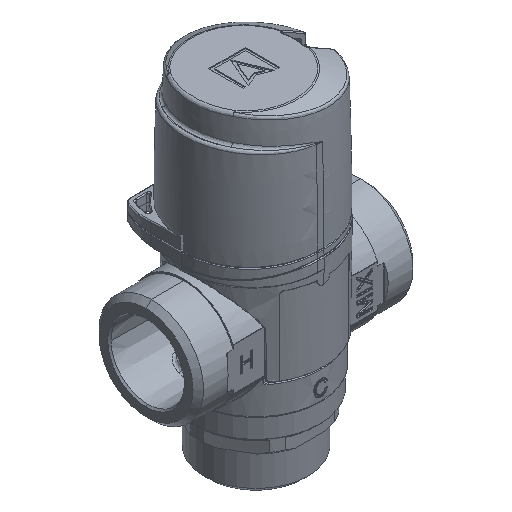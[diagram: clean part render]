
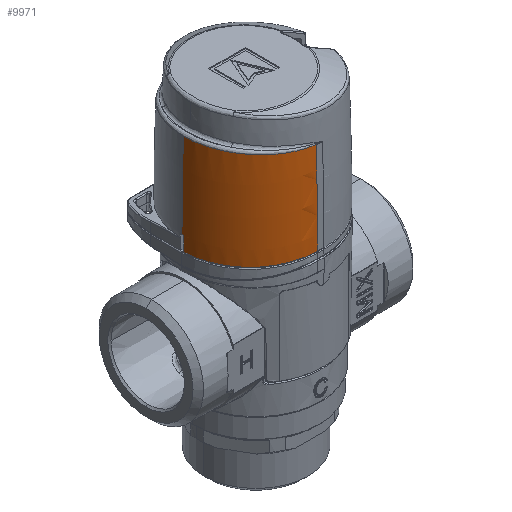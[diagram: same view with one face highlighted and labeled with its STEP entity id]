
A CAD part, isometric view. The second image highlights one B-rep face of the part: STEP entity #9971.
In plain terms, the highlighted toroidal (fillet/blend) face has major radius 1063.64 mm and minor radius 1085.24 mm.
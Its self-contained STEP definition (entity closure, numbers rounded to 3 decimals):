
#1653 = CARTESIAN_POINT ( 'NONE',  ( 2., 21.194, 29.493 ) ) ;
#3725 = CIRCLE ( 'NONE', #102934, 1085.244 ) ;
#4660 = CARTESIAN_POINT ( 'NONE',  ( 23.581, 0.6, 4.632 ) ) ;
#9971 = ADVANCED_FACE ( 'NONE', ( #64599 ), #78752, .T. ) ;
#10187 = EDGE_CURVE ( 'NONE', #58458, #79698, #137815, .T. ) ;
#10274 = ORIENTED_EDGE ( 'NONE', *, *, #98306, .T. ) ;
#10327 = DIRECTION ( 'NONE',  ( 0., 0., -1. ) ) ;
#11094 = ORIENTED_EDGE ( 'NONE', *, *, #10187, .T. ) ;
#12767 = CARTESIAN_POINT ( 'NONE',  ( -1061.644, 0., -0.2 ) ) ;
#14966 = CARTESIAN_POINT ( 'NONE',  ( 23.592, 0.6, 0.3 ) ) ;
#15991 = CARTESIAN_POINT ( 'NONE',  ( 23.587, 0.1, 5. ) ) ;
#17786 = DIRECTION ( 'NONE',  ( 1., 0., 0. ) ) ;
#18327 = CARTESIAN_POINT ( 'NONE',  ( 23.585, 0.361, 4.946 ) ) ;
#26765 = EDGE_CURVE ( 'NONE', #141821, #33703, #111987, .T. ) ;
#27753 = ORIENTED_EDGE ( 'NONE', *, *, #58294, .F. ) ;
#33703 = VERTEX_POINT ( 'NONE', #52041 ) ;
#36559 = ORIENTED_EDGE ( 'NONE', *, *, #50567, .T. ) ;
#36693 = DIRECTION ( 'NONE',  ( 1., 0., 0. ) ) ;
#36883 = ORIENTED_EDGE ( 'NONE', *, *, #84204, .F. ) ;
#37911 = CARTESIAN_POINT ( 'NONE',  ( 3.393, 21.19, 29.641 ) ) ;
#40406 = CIRCLE ( 'NONE', #79644, 21.588 ) ;
#43924 = CARTESIAN_POINT ( 'NONE',  ( 22.925, 3.47, 31.712 ) ) ;
#49632 = CARTESIAN_POINT ( 'NONE',  ( 23.588, 0.6, 3.1 ) ) ;
#49802 = AXIS2_PLACEMENT_3D ( 'NONE', #12767, #134808, #110263 ) ;
#50567 = EDGE_CURVE ( 'NONE', #79698, #86190, #67792, .T. ) ;
#51254 = EDGE_LOOP ( 'NONE', ( #135536, #27753, #11094, #36559, #10274, #36883, #89511 ) ) ;
#51717 = DIRECTION ( 'NONE',  ( 0., 0., 1. ) ) ;
#52041 = CARTESIAN_POINT ( 'NONE',  ( 23.13, 0., 31.733 ) ) ;
#57635 = DIRECTION ( 'NONE',  ( 0., 0., 1. ) ) ;
#58294 = EDGE_CURVE ( 'NONE', #58458, #141821, #40406, .T. ) ;
#58458 = VERTEX_POINT ( 'NONE', #15991 ) ;
#60234 = CARTESIAN_POINT ( 'NONE',  ( 23.582, 0.546, 4.762 ) ) ;
#64599 = FACE_OUTER_BOUND ( 'NONE', #51254, .T. ) ;
#67209 = DIRECTION ( 'NONE',  ( -1., 0., 0. ) ) ;
#67792 = B_SPLINE_CURVE_WITH_KNOTS ( 'NONE', 3,
 ( #126176, #49632, #127583, #14966 ),
 .UNSPECIFIED., .F., .F.,
 ( 4, 4 ),
 ( 0., 0.004 ),
 .UNSPECIFIED. ) ;
#68215 = CARTESIAN_POINT ( 'NONE',  ( 17.027, 15.074, 31.086 ) ) ;
#69355 = CARTESIAN_POINT ( 'NONE',  ( 2., -1063.644, -0.2 ) ) ;
#78752 = TOROIDAL_SURFACE ( 'NONE', #131848, -1063.644, 1085.244 ) ;
#79143 = CARTESIAN_POINT ( 'NONE',  ( 23.588, 0., 5. ) ) ;
#79644 = AXIS2_PLACEMENT_3D ( 'NONE', #109227, #10327, #94964 ) ;
#79698 = VERTEX_POINT ( 'NONE', #105389 ) ;
#79801 = EDGE_CURVE ( 'NONE', #33703, #86112, #125920, .T. ) ;
#84204 = EDGE_CURVE ( 'NONE', #86112, #121633, #3725, .T. ) ;
#86112 = VERTEX_POINT ( 'NONE', #1653 ) ;
#86190 = VERTEX_POINT ( 'NONE', #104856 ) ;
#88007 = CARTESIAN_POINT ( 'NONE',  ( 22.242, 6.189, 31.639 ) ) ;
#88948 = DIRECTION ( 'NONE',  ( 0., -1., 0. ) ) ;
#89511 = ORIENTED_EDGE ( 'NONE', *, *, #79801, .F. ) ;
#91418 = CARTESIAN_POINT ( 'NONE',  ( 13.775, 17.743, 30.742 ) ) ;
#92144 = CARTESIAN_POINT ( 'NONE',  ( 21.542, 8.137, 31.565 ) ) ;
#93346 = AXIS2_PLACEMENT_3D ( 'NONE', #125481, #57635, #36693 ) ;
#93704 = CARTESIAN_POINT ( 'NONE',  ( 2., 0., -0.2 ) ) ;
#94964 = DIRECTION ( 'NONE',  ( 1., 0., 0. ) ) ;
#98306 = EDGE_CURVE ( 'NONE', #86190, #121633, #113944, .T. ) ;
#102934 = AXIS2_PLACEMENT_3D ( 'NONE', #69355, #67209, #88948 ) ;
#104856 = CARTESIAN_POINT ( 'NONE',  ( 23.592, 0.6, 0.3 ) ) ;
#105389 = CARTESIAN_POINT ( 'NONE',  ( 23.582, 0.6, 4.5 ) ) ;
#105733 = CARTESIAN_POINT ( 'NONE',  ( 23.582, 0.6, 4.5 ) ) ;
#109227 = CARTESIAN_POINT ( 'NONE',  ( 2., 0., 5. ) ) ;
#110263 = DIRECTION ( 'NONE',  ( 0., 0., -1. ) ) ;
#111987 = CIRCLE ( 'NONE', #49802, 1085.244 ) ;
#113944 = CIRCLE ( 'NONE', #93346, 21.6 ) ;
#115157 = CARTESIAN_POINT ( 'NONE',  ( 23.131, 1.399, 31.734 ) ) ;
#117252 = CARTESIAN_POINT ( 'NONE',  ( 23.587, 0.232, 5. ) ) ;
#121633 = VERTEX_POINT ( 'NONE', #127436 ) ;
#123125 = CARTESIAN_POINT ( 'NONE',  ( 23.13, 0.005, 31.733 ) ) ;
#123851 = CARTESIAN_POINT ( 'NONE',  ( 20.656, 10.011, 31.471 ) ) ;
#125481 = CARTESIAN_POINT ( 'NONE',  ( 2., 0., 0.3 ) ) ;
#125920 = B_SPLINE_CURVE_WITH_KNOTS ( 'NONE', 3,
 ( #142929, #123125, #115157, #43924, #88007, #92144, #123851, #131996, #68215, #91418, #125993, #135423, #37911, #136164 ),
 .UNSPECIFIED., .F., .F.,
 ( 4, 1, 1, 1, 1, 1, 1, 1, 1, 1, 1, 4 ),
 ( 0.5, 0.5, 0.563, 0.594, 0.625, 0.656, 0.688, 0.75, 0.812, 0.875, 0.938, 1. ),
 .UNSPECIFIED. ) ;
#125993 = CARTESIAN_POINT ( 'NONE',  ( 10.135, 19.691, 30.356 ) ) ;
#126176 = CARTESIAN_POINT ( 'NONE',  ( 23.582, 0.6, 4.5 ) ) ;
#127436 = CARTESIAN_POINT ( 'NONE',  ( 2., 21.6, 0.3 ) ) ;
#127583 = CARTESIAN_POINT ( 'NONE',  ( 23.591, 0.6, 1.7 ) ) ;
#131848 = AXIS2_PLACEMENT_3D ( 'NONE', #93704, #51717, #17786 ) ;
#131996 = CARTESIAN_POINT ( 'NONE',  ( 19.212, 12.415, 31.318 ) ) ;
#133232 = CARTESIAN_POINT ( 'NONE',  ( 23.587, 0.1, 5. ) ) ;
#134808 = DIRECTION ( 'NONE',  ( 0., -1., 0. ) ) ;
#135423 = CARTESIAN_POINT ( 'NONE',  ( 6.124, 20.914, 29.93 ) ) ;
#135536 = ORIENTED_EDGE ( 'NONE', *, *, #26765, .F. ) ;
#136164 = CARTESIAN_POINT ( 'NONE',  ( 2., 21.194, 29.493 ) ) ;
#137815 = B_SPLINE_CURVE_WITH_KNOTS ( 'NONE', 3,
 ( #133232, #117252, #18327, #60234, #4660, #105733 ),
 .UNSPECIFIED., .F., .F.,
 ( 4, 2, 4 ),
 ( 0., 0., 0.001 ),
 .UNSPECIFIED. ) ;
#141821 = VERTEX_POINT ( 'NONE', #79143 ) ;
#142929 = CARTESIAN_POINT ( 'NONE',  ( 23.13, 0., 31.733 ) ) ;
